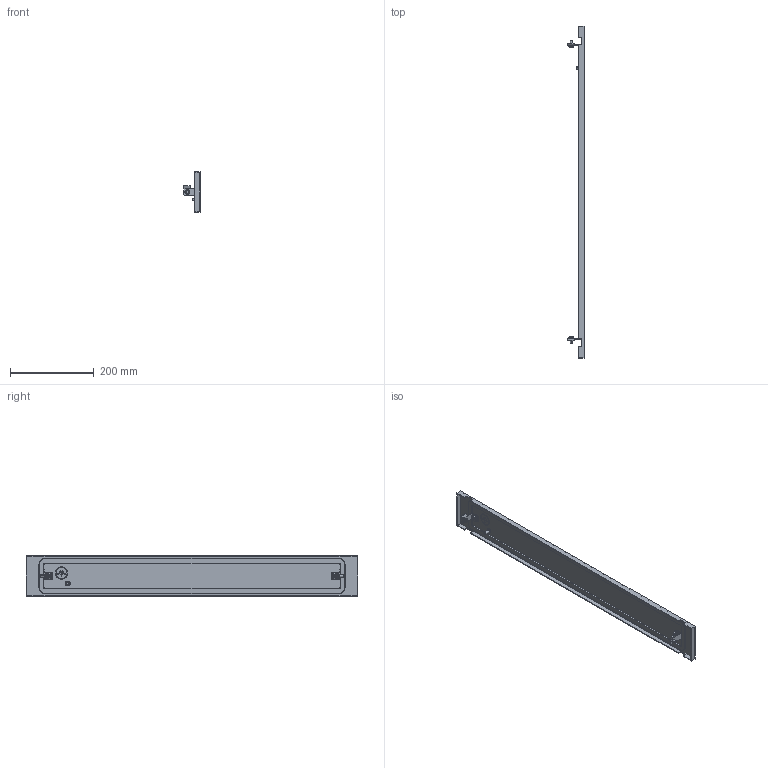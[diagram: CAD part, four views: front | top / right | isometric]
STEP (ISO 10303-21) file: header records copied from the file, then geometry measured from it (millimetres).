
FILE_DESCRIPTION (( 'STEP AP214' ), '1' );
FILE_NAME ('FO-00-PWSB-010-080 Ôàëüø-ïàíåëü âíåøíÿÿ ãëóõàÿ 100õ800 ìì.STEP', '2025-08-25T08:41:37', ( '' ), ( '' ), 'SwSTEP 2.0', 'SolidWorks 2023', '' );
FILE_SCHEMA (( 'AUTOMOTIVE_DESIGN' ));
Length unit declared in the file: millimetre
Products named in the file (1): FO-00-PWSB-010-080 Фальш-панель внешняя глухая 100х800 мм
Bounding box: 38.5 x 795 x 96 mm (x, y, z)
Volume: 250067.2 mm3; surface area: 207446.2 mm2
Topology: 1 solids, 6 shells, 468 faces, 1159 edges, 717 vertices
Faces by surface type: plane 288, cylinder 116, cone 48, torus 16
Entity records: 14002 total; most frequent: CARTESIAN_POINT 2667, DIRECTION 2423, ORIENTED_EDGE 2314, EDGE_CURVE 1157, AXIS2_PLACEMENT_3D 829, LINE 765, VECTOR 765, VERTEX_POINT 717
